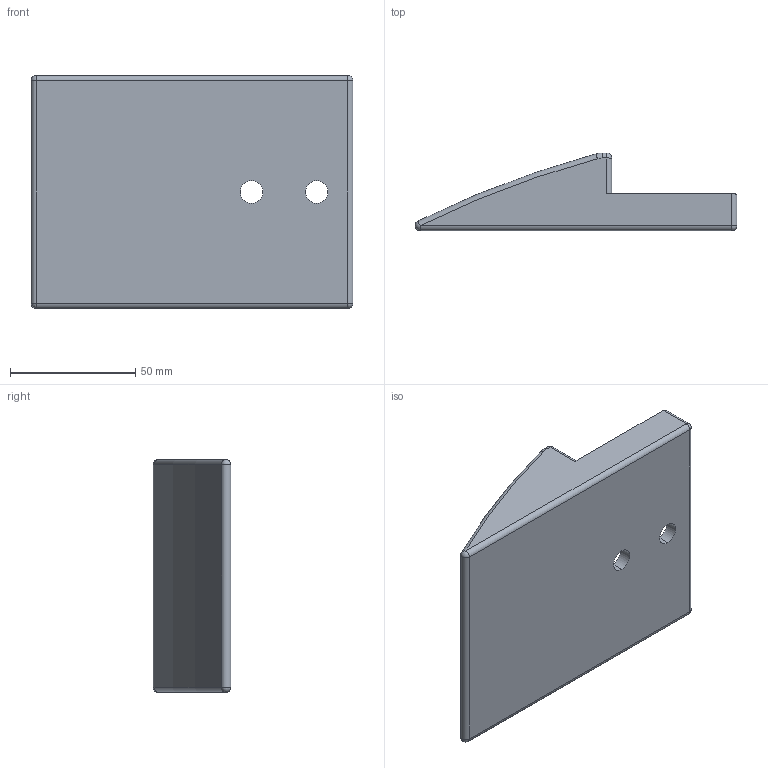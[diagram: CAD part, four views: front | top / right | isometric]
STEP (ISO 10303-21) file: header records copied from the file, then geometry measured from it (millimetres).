
FILE_DESCRIPTION (( 'STEP AP214' ), '1' );
FILE_NAME ('FGEC L2.step', '2017-04-05T07:37:18', ( '' ), ( '' ), 'SwSTEP 2.0', 'SolidWorks 2015', '' );
FILE_SCHEMA (( 'AUTOMOTIVE_DESIGN' ));
Length unit declared in the file: millimetre
Products named in the file (1): FGEC L2
Bounding box: 128.58 x 31 x 93 mm (x, y, z)
Volume: 193659.1 mm3; surface area: 32125.1 mm2
Topology: 1 solids, 1 shells, 76 faces, 182 edges, 102 vertices
Faces by surface type: cylinder 35, plane 23, torus 8, sphere 6, bspline 4
Entity records: 2326 total; most frequent: CARTESIAN_POINT 565, DIRECTION 380, ORIENTED_EDGE 352, EDGE_CURVE 176, AXIS2_PLACEMENT_3D 145, VERTEX_POINT 102, VECTOR 90, LINE 90
